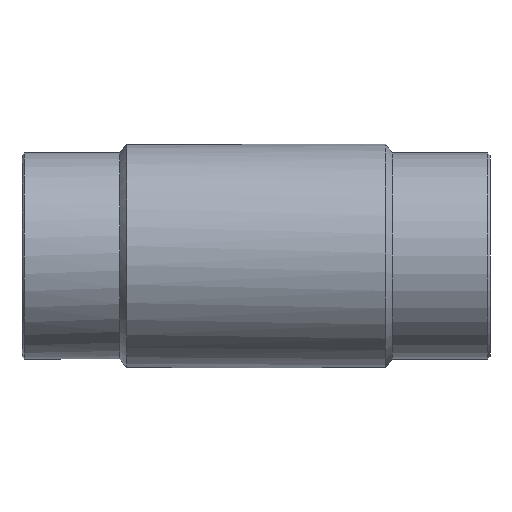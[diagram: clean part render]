
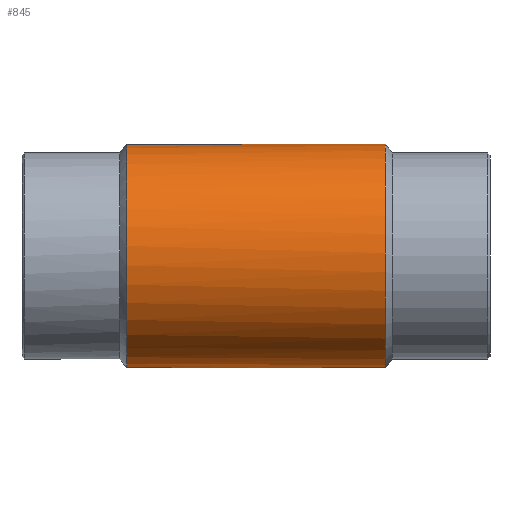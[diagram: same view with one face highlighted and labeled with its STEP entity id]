
A CAD part, front view. The second image highlights one B-rep face of the part: STEP entity #845.
In plain terms, the highlighted cylindrical face has radius 192.5 mm (diameter 385 mm), a partial arc.
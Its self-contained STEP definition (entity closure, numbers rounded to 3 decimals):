
#71=LINE('',#1476,#111);
#76=LINE('',#1588,#116);
#78=LINE('',#1675,#118);
#79=LINE('',#1676,#119);
#111=VECTOR('',#1126,1000.);
#116=VECTOR('',#1149,1000.);
#118=VECTOR('',#1163,1000.);
#119=VECTOR('',#1164,1000.);
#149=ELLIPSE('',#936,283.042,192.5);
#151=ELLIPSE('',#941,283.042,192.5);
#153=ELLIPSE('',#948,283.042,192.5);
#155=ELLIPSE('',#950,283.042,192.5);
#172=CYLINDRICAL_SURFACE('',#953,192.5);
#335=ORIENTED_EDGE('',*,*,#505,.T.);
#336=ORIENTED_EDGE('',*,*,#508,.T.);
#337=ORIENTED_EDGE('',*,*,#461,.F.);
#338=ORIENTED_EDGE('',*,*,#509,.F.);
#339=ORIENTED_EDGE('',*,*,#489,.T.);
#340=ORIENTED_EDGE('',*,*,#481,.T.);
#341=ORIENTED_EDGE('',*,*,#483,.F.);
#342=ORIENTED_EDGE('',*,*,#460,.T.);
#343=ORIENTED_EDGE('',*,*,#501,.T.);
#344=ORIENTED_EDGE('',*,*,#502,.T.);
#460=EDGE_CURVE('',#566,#567,#635,.T.);
#461=EDGE_CURVE('',#568,#569,#636,.T.);
#481=EDGE_CURVE('',#586,#584,#149,.T.);
#483=EDGE_CURVE('',#566,#584,#71,.T.);
#489=EDGE_CURVE('',#590,#586,#151,.F.);
#501=EDGE_CURVE('',#567,#597,#76,.T.);
#502=EDGE_CURVE('',#597,#598,#153,.T.);
#505=EDGE_CURVE('',#598,#599,#155,.F.);
#508=EDGE_CURVE('',#599,#569,#78,.T.);
#509=EDGE_CURVE('',#590,#568,#79,.T.);
#566=VERTEX_POINT('',#1345);
#567=VERTEX_POINT('',#1350);
#568=VERTEX_POINT('',#1354);
#569=VERTEX_POINT('',#1355);
#584=VERTEX_POINT('',#1470);
#586=VERTEX_POINT('',#1473);
#590=VERTEX_POINT('',#1531);
#597=VERTEX_POINT('',#1587);
#598=VERTEX_POINT('',#1623);
#599=VERTEX_POINT('',#1668);
#635=CIRCLE('',#923,192.5);
#636=CIRCLE('',#925,192.5);
#706=EDGE_LOOP('',(#335,#336,#337,#338,#339,#340,#341,#342,#343,#344));
#776=FACE_BOUND('',#706,.T.);
#845=ADVANCED_FACE('',(#776),#172,.T.);
#923=AXIS2_PLACEMENT_3D('',#1351,#1091,#1092);
#925=AXIS2_PLACEMENT_3D('',#1353,#1095,#1096);
#936=AXIS2_PLACEMENT_3D('',#1472,#1120,#1121);
#941=AXIS2_PLACEMENT_3D('',#1530,#1132,#1133);
#948=AXIS2_PLACEMENT_3D('',#1622,#1150,#1151);
#950=AXIS2_PLACEMENT_3D('',#1670,#1154,#1155);
#953=AXIS2_PLACEMENT_3D('',#1674,#1161,#1162);
#1091=DIRECTION('',(-1.,0.,0.));
#1092=DIRECTION('',(0.,0.,1.));
#1095=DIRECTION('',(-1.,0.,0.));
#1096=DIRECTION('',(0.,0.,1.));
#1120=DIRECTION('',(0.68,-0.733,0.));
#1121=DIRECTION('',(-0.733,-0.68,0.));
#1126=DIRECTION('',(-1.,0.,0.));
#1132=DIRECTION('',(0.68,0.733,0.));
#1133=DIRECTION('',(-0.733,0.68,0.));
#1149=DIRECTION('',(-1.,0.,0.));
#1150=DIRECTION('',(0.68,-0.733,0.));
#1151=DIRECTION('',(-0.733,-0.68,0.));
#1154=DIRECTION('',(0.68,0.733,0.));
#1155=DIRECTION('',(-0.733,0.68,0.));
#1161=DIRECTION('',(-1.,0.,0.));
#1162=DIRECTION('',(0.,0.,1.));
#1163=DIRECTION('',(-1.,0.,0.));
#1164=DIRECTION('',(-1.,0.,0.));
#1345=CARTESIAN_POINT('',(223.,191.875,-15.5));
#1350=CARTESIAN_POINT('',(223.,191.875,15.5));
#1351=CARTESIAN_POINT('',(223.,0.,0.));
#1353=CARTESIAN_POINT('',(-223.,0.,0.));
#1354=CARTESIAN_POINT('',(-223.,191.875,-15.5));
#1355=CARTESIAN_POINT('',(-223.,191.875,15.5));
#1470=CARTESIAN_POINT('',(206.826,191.875,-15.5));
#1472=CARTESIAN_POINT('',(0.,0.,0.));
#1473=CARTESIAN_POINT('',(0.,0.,-192.5));
#1476=CARTESIAN_POINT('',(-60.,191.875,-15.5));
#1530=CARTESIAN_POINT('',(0.,0.,0.));
#1531=CARTESIAN_POINT('',(-206.826,191.875,-15.5));
#1587=CARTESIAN_POINT('',(206.826,191.875,15.5));
#1588=CARTESIAN_POINT('',(-60.,191.875,15.5));
#1622=CARTESIAN_POINT('',(0.,0.,0.));
#1623=CARTESIAN_POINT('',(0.,0.,192.5));
#1668=CARTESIAN_POINT('',(-206.826,191.875,15.5));
#1670=CARTESIAN_POINT('',(0.,0.,0.));
#1674=CARTESIAN_POINT('',(-60.,0.,0.));
#1675=CARTESIAN_POINT('',(-60.,191.875,15.5));
#1676=CARTESIAN_POINT('',(-60.,191.875,-15.5));
